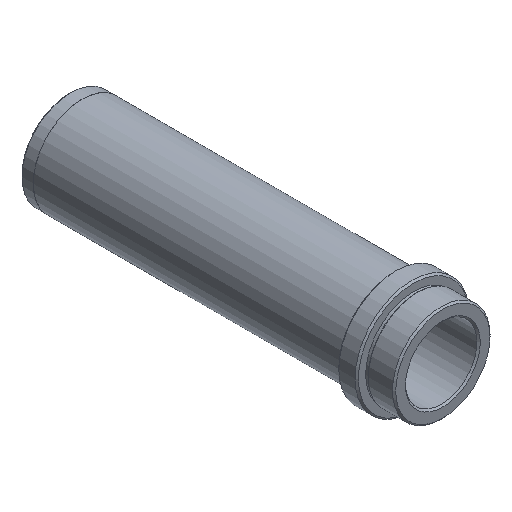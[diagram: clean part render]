
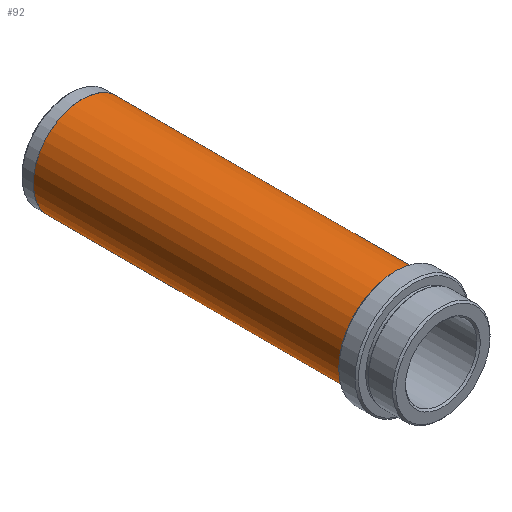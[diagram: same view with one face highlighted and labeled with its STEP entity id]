
A CAD part, isometric view. The second image highlights one B-rep face of the part: STEP entity #92.
In plain terms, the highlighted cylindrical face has radius 15 mm (diameter 30 mm), a full revolution.
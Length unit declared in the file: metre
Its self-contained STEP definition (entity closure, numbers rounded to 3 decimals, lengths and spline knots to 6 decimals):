
#92 = ADVANCED_FACE( '', ( #144, #145 ), #146, .T. );
#144 = FACE_OUTER_BOUND( '', #204, .T. );
#145 = FACE_OUTER_BOUND( '', #205, .T. );
#146 = CYLINDRICAL_SURFACE( '', #206, 0.015 );
#204 = EDGE_LOOP( '', ( #294 ) );
#205 = EDGE_LOOP( '', ( #295 ) );
#206 = AXIS2_PLACEMENT_3D( '', #296, #297, #298 );
#294 = ORIENTED_EDGE( '', *, *, #335, .T. );
#295 = ORIENTED_EDGE( '', *, *, #334, .F. );
#296 = CARTESIAN_POINT( '', ( 0., 0., 0. ) );
#297 = DIRECTION( '', ( 0., 1., 0. ) );
#298 = DIRECTION( '', ( 0., 0., -1. ) );
#334 = EDGE_CURVE( '', #369, #369, #370, .T. );
#335 = EDGE_CURVE( '', #371, #371, #372, .T. );
#369 = VERTEX_POINT( '', #409 );
#370 = CIRCLE( '', #410, 0.015 );
#371 = VERTEX_POINT( '', #411 );
#372 = CIRCLE( '', #412, 0.015 );
#409 = CARTESIAN_POINT( '', ( 0., 0.007, -0.015 ) );
#410 = AXIS2_PLACEMENT_3D( '', #464, #465, #466 );
#411 = CARTESIAN_POINT( '', ( 0., 0.102, -0.015 ) );
#412 = AXIS2_PLACEMENT_3D( '', #467, #468, #469 );
#464 = CARTESIAN_POINT( '', ( 0., 0.007, 0. ) );
#465 = DIRECTION( '', ( 0., -1., 0. ) );
#466 = DIRECTION( '', ( 0., 0., -1. ) );
#467 = CARTESIAN_POINT( '', ( 0., 0.102, 0. ) );
#468 = DIRECTION( '', ( 0., -1., 0. ) );
#469 = DIRECTION( '', ( 0., 0., -1. ) );
